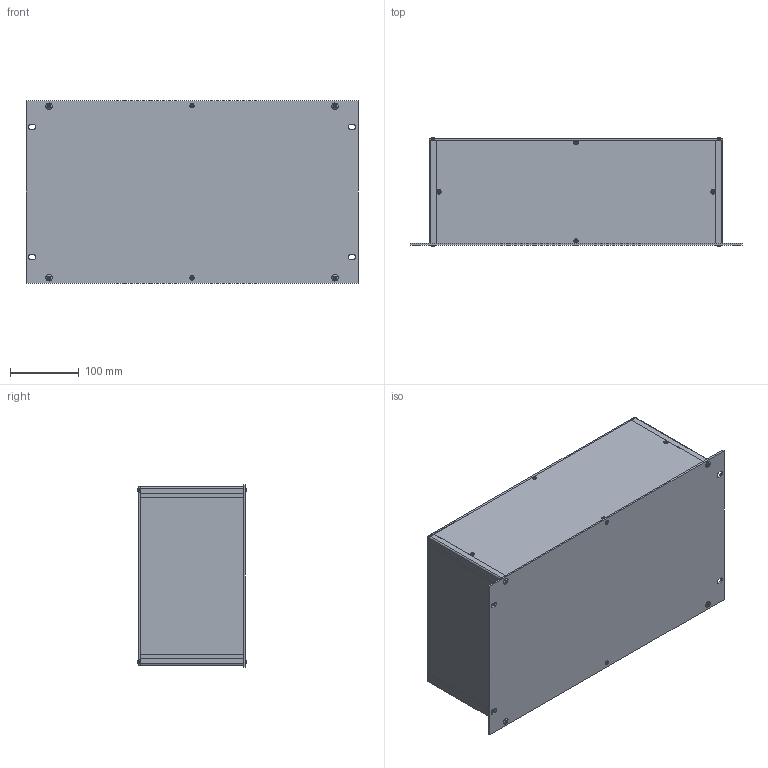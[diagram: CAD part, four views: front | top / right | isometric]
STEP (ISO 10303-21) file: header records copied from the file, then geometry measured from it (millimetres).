
FILE_DESCRIPTION(/* description */ (''),/* implementation_level */ '2;1');
FILE_NAME(/* name */ '//diskstation/Kunden/Gehäuse/Gehäuse/6HE/step/Zoll 6HE Rack Gehäuse Tiefe-150.step',/* time_stamp */ '2022-02-17T16:59:51+01:00',/* author */ (''),/* organization */ (''),/* preprocessor_version */ 'ST-DEVELOPER v18.1',/* originating_system */ 'Autodesk Translation Framework v10.10.0.1391',/* authorisation */ '');
FILE_SCHEMA (('AUTOMOTIVE_DESIGN { 1 0 10303 214 3 1 1 }'));
Length unit declared in the file: millimetre
Products named in the file (28): 6HE Gehäuse mit parametern; Gehäuse; Gehäuseprofil 1 unten links; Gehäuseprofil 2 oben rechts; Gehäuseprofil 1 unten rechts; Gehäuseprofil 2 oben links; Rückplatte; Deckel; Seitenteil links; Seitenteil rechts; Bodenplatte; Montageklotz Front/Deckel; Montageklotz Front/Boden; Montageklotz Rück/Deckel; Montageklotz Rück/Boden; Gewindestreifen; Frontplatte; Schrauben M5; Schraube Front; Schraube Front (1); Schraube Front (2); Schraube Front (3); Schraube Rück (1); Schraube Rück; Schraube Rück (2); Schraube Rück (3); Schrauben M3; HI_Senkschraube DIN 965 A v2 M3x5 24677.030.005(High)
Assembly tree (37 placements, depth 3):
  6HE Gehäuse mit parametern
    Gehäuse
      Gehäuseprofil 1 unten links
      Gehäuseprofil 2 oben rechts
      Gehäuseprofil 1 unten rechts
      Gehäuseprofil 2 oben links
      Rückplatte
      Deckel
      Seitenteil links
      Seitenteil rechts
      Bodenplatte
      Montageklotz Front/Deckel
      Montageklotz Front/Boden
      Montageklotz Rück/Deckel
      Montageklotz Rück/Boden
      Gewindestreifen  x2
    Frontplatte
    Schrauben M5
      Schraube Front
      Schraube Front (1)
      Schraube Front (2)
      Schraube Front (3)
      Schraube Rück (1)
      Schraube Rück
      Schraube Rück (2)
      Schraube Rück (3)
    Schrauben M3
      HI_Senkschraube DIN 965 A v2 M3x5 24677.030.005(High)  x10
Bounding box: 483 x 158.2 x 265 mm (x, y, z)
Volume: 1113389.6 mm3; surface area: 947458.3 mm2
Topology: 34 solids, 34 shells, 822 faces, 1980 edges, 1226 vertices
Faces by surface type: plane 346, cylinder 296, cone 164, torus 8, bspline 8
Full cylindrical faces by diameter (mm): 2.529 x50, 3 x10, 3.2 x10, 4.234 x40, 5 x8, 5.2 x4, 5.3 x8, 5.6 x10, 9.5 x8
Entity records: 16201 total; most frequent: CARTESIAN_POINT 2982, DIRECTION 2704, ORIENTED_EDGE 2394, EDGE_CURVE 1197, AXIS2_PLACEMENT_3D 1008, VERTEX_POINT 746, LINE 688, VECTOR 688
